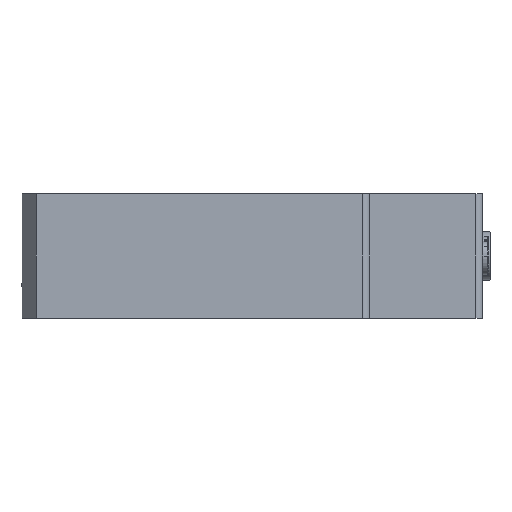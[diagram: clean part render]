
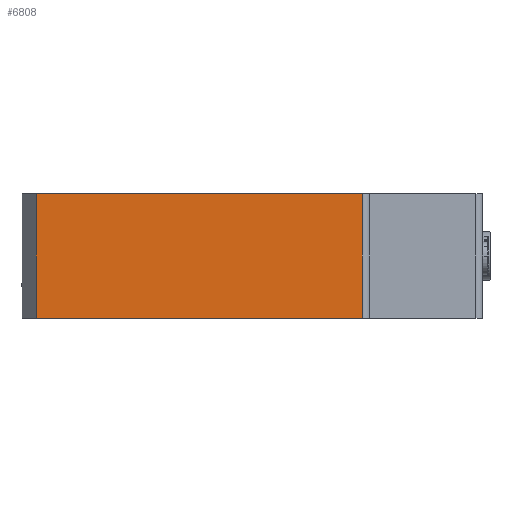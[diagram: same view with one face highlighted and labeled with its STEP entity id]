
A CAD part, front view. The second image highlights one B-rep face of the part: STEP entity #6808.
In plain terms, the highlighted planar face has unit normal (0, -1, 0).
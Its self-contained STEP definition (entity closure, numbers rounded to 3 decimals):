
#66 = AXIS2_PLACEMENT_3D ( 'NONE', #7081, #6974, #3347 ) ;
#220 = DIRECTION ( 'NONE',  ( 1., 0., 0. ) ) ;
#524 = ORIENTED_EDGE ( 'NONE', *, *, #5576, .T. ) ;
#546 = CARTESIAN_POINT ( 'NONE',  ( -17., -67.25, 17.6 ) ) ;
#671 = VECTOR ( 'NONE', #5150, 1000. ) ;
#687 = ORIENTED_EDGE ( 'NONE', *, *, #7912, .F. ) ;
#1520 = CARTESIAN_POINT ( 'NONE',  ( -17., -67.25, 17.6 ) ) ;
#1711 = CARTESIAN_POINT ( 'NONE',  ( -63., -67.25, 17.6 ) ) ;
#1736 = FACE_OUTER_BOUND ( 'NONE', #3351, .T. ) ;
#2314 = LINE ( 'NONE', #7593, #671 ) ;
#2367 = LINE ( 'NONE', #1711, #6702 ) ;
#2380 = LINE ( 'NONE', #6409, #2579 ) ;
#2400 = EDGE_CURVE ( 'NONE', #4265, #6585, #2367, .T. ) ;
#2421 = CARTESIAN_POINT ( 'NONE',  ( -63., -67.25, 0. ) ) ;
#2505 = VECTOR ( 'NONE', #3700, 1000. ) ;
#2579 = VECTOR ( 'NONE', #220, 1000. ) ;
#2696 = LINE ( 'NONE', #546, #2505 ) ;
#2767 = PLANE ( 'NONE',  #66 ) ;
#2900 = ORIENTED_EDGE ( 'NONE', *, *, #2400, .T. ) ;
#3347 = DIRECTION ( 'NONE',  ( 0., 0., 1. ) ) ;
#3351 = EDGE_LOOP ( 'NONE', ( #687, #2900, #4298, #524 ) ) ;
#3700 = DIRECTION ( 'NONE',  ( 0., 0., 1. ) ) ;
#4120 = VERTEX_POINT ( 'NONE', #6168 ) ;
#4265 = VERTEX_POINT ( 'NONE', #7326 ) ;
#4298 = ORIENTED_EDGE ( 'NONE', *, *, #6856, .T. ) ;
#5150 = DIRECTION ( 'NONE',  ( 1., 0., 0. ) ) ;
#5576 = EDGE_CURVE ( 'NONE', #4120, #6430, #2696, .T. ) ;
#6168 = CARTESIAN_POINT ( 'NONE',  ( -17., -67.25, 0. ) ) ;
#6409 = CARTESIAN_POINT ( 'NONE',  ( -16., -67.25, 17.6 ) ) ;
#6430 = VERTEX_POINT ( 'NONE', #1520 ) ;
#6585 = VERTEX_POINT ( 'NONE', #2421 ) ;
#6702 = VECTOR ( 'NONE', #7737, 1000. ) ;
#6808 = ADVANCED_FACE ( 'NONE', ( #1736 ), #2767, .F. ) ;
#6856 = EDGE_CURVE ( 'NONE', #6585, #4120, #2314, .T. ) ;
#6974 = DIRECTION ( 'NONE',  ( 0., 1., 0. ) ) ;
#7081 = CARTESIAN_POINT ( 'NONE',  ( -16., -67.25, 17.6 ) ) ;
#7326 = CARTESIAN_POINT ( 'NONE',  ( -63., -67.25, 17.6 ) ) ;
#7593 = CARTESIAN_POINT ( 'NONE',  ( -16., -67.25, 0. ) ) ;
#7737 = DIRECTION ( 'NONE',  ( 0., 0., -1. ) ) ;
#7912 = EDGE_CURVE ( 'NONE', #4265, #6430, #2380, .T. ) ;
